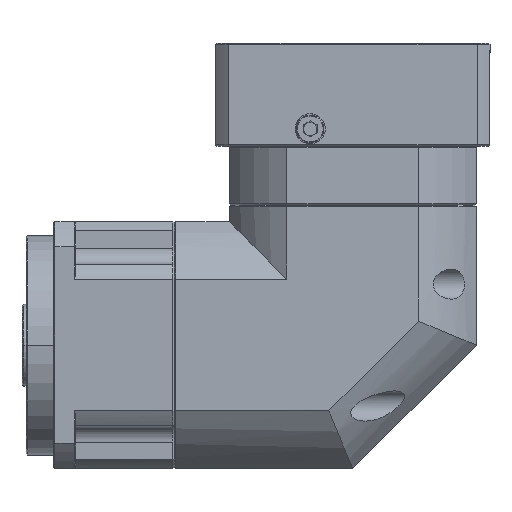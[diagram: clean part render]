
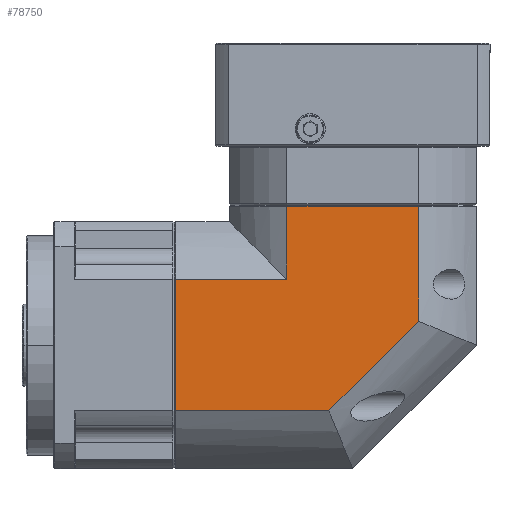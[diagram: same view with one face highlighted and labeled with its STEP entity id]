
A CAD part, top view. The second image highlights one B-rep face of the part: STEP entity #78750.
In plain terms, the highlighted planar face has unit normal (0, 0, -1).
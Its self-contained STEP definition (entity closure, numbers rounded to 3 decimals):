
#3 = CARTESIAN_POINT ( 'NONE',  ( 98.75, 24., 45. ) ) ;
#1104 = DIRECTION ( 'NONE',  ( -1., 0., 0. ) ) ;
#3790 = LINE ( 'NONE', #12963, #30689 ) ;
#4837 = CARTESIAN_POINT ( 'NONE',  ( 95., 50.5, 45. ) ) ;
#5391 = ORIENTED_EDGE ( 'NONE', *, *, #31194, .F. ) ;
#6492 = EDGE_CURVE ( 'NONE', #23759, #75679, #46971, .T. ) ;
#7137 = EDGE_CURVE ( 'NONE', #33774, #74634, #31535, .T. ) ;
#8368 = VERTEX_POINT ( 'NONE', #15117 ) ;
#10895 = DIRECTION ( 'NONE',  ( 0., -1., 0. ) ) ;
#12169 = CARTESIAN_POINT ( 'NONE',  ( 95., 24., 45. ) ) ;
#12963 = CARTESIAN_POINT ( 'NONE',  ( 119., 50.5, 45. ) ) ;
#15117 = CARTESIAN_POINT ( 'NONE',  ( 54.5, -24., 45. ) ) ;
#18103 = VECTOR ( 'NONE', #1104, 1000. ) ;
#20624 = ORIENTED_EDGE ( 'NONE', *, *, #6492, .F. ) ;
#21760 = CARTESIAN_POINT ( 'NONE',  ( 110.302, -24., 45. ) ) ;
#21867 = DIRECTION ( 'NONE',  ( 1., 0., 0. ) ) ;
#22541 = CARTESIAN_POINT ( 'NONE',  ( 95., 13.25, 45. ) ) ;
#23194 = VERTEX_POINT ( 'NONE', #4837 ) ;
#23759 = VERTEX_POINT ( 'NONE', #21760 ) ;
#24853 = EDGE_CURVE ( 'NONE', #23194, #51222, #3790, .T. ) ;
#26174 = DIRECTION ( 'NONE',  ( 0.707, 0.707, 0. ) ) ;
#30689 = VECTOR ( 'NONE', #59092, 1000. ) ;
#31194 = EDGE_CURVE ( 'NONE', #74634, #8368, #72410, .T. ) ;
#31535 = LINE ( 'NONE', #3, #18103 ) ;
#32057 = ORIENTED_EDGE ( 'NONE', *, *, #7137, .F. ) ;
#33073 = CARTESIAN_POINT ( 'NONE',  ( 149.421, 15.119, 45. ) ) ;
#33774 = VERTEX_POINT ( 'NONE', #12169 ) ;
#36659 = LINE ( 'NONE', #80398, #49079 ) ;
#40801 = DIRECTION ( 'NONE',  ( 0., 0., -1. ) ) ;
#43346 = CARTESIAN_POINT ( 'NONE',  ( 143., 8.698, 45. ) ) ;
#43385 = ORIENTED_EDGE ( 'NONE', *, *, #24853, .T. ) ;
#46971 = LINE ( 'NONE', #33073, #74817 ) ;
#48159 = LINE ( 'NONE', #22541, #79118 ) ;
#49079 = VECTOR ( 'NONE', #21867, 1000. ) ;
#50875 = ORIENTED_EDGE ( 'NONE', *, *, #80643, .F. ) ;
#51222 = VERTEX_POINT ( 'NONE', #83897 ) ;
#51351 = EDGE_CURVE ( 'NONE', #8368, #23759, #36659, .T. ) ;
#51701 = CARTESIAN_POINT ( 'NONE',  ( 54.5, 24., 45. ) ) ;
#54061 = CARTESIAN_POINT ( 'NONE',  ( 54.5, -24., 45. ) ) ;
#54848 = AXIS2_PLACEMENT_3D ( 'NONE', #54061, #40801, #59832 ) ;
#57030 = LINE ( 'NONE', #84654, #66367 ) ;
#57298 = ORIENTED_EDGE ( 'NONE', *, *, #76611, .F. ) ;
#59092 = DIRECTION ( 'NONE',  ( 1., 0., 0. ) ) ;
#59832 = DIRECTION ( 'NONE',  ( 0., 1., 0. ) ) ;
#65641 = DIRECTION ( 'NONE',  ( 0., 1., 0. ) ) ;
#66367 = VECTOR ( 'NONE', #65641, 1000. ) ;
#66412 = FACE_OUTER_BOUND ( 'NONE', #74257, .T. ) ;
#71347 = VECTOR ( 'NONE', #10895, 1000. ) ;
#72410 = LINE ( 'NONE', #78080, #71347 ) ;
#74257 = EDGE_LOOP ( 'NONE', ( #20624, #83486, #5391, #32057, #50875, #43385, #57298 ) ) ;
#74634 = VERTEX_POINT ( 'NONE', #51701 ) ;
#74817 = VECTOR ( 'NONE', #26174, 1000. ) ;
#75679 = VERTEX_POINT ( 'NONE', #43346 ) ;
#76611 = EDGE_CURVE ( 'NONE', #75679, #51222, #57030, .T. ) ;
#78080 = CARTESIAN_POINT ( 'NONE',  ( 54.5, 13.25, 45. ) ) ;
#78750 = ADVANCED_FACE ( 'NONE', ( #66412 ), #80299, .T. ) ;
#79118 = VECTOR ( 'NONE', #80785, 1000. ) ;
#80299 = PLANE ( 'NONE',  #54848 ) ;
#80398 = CARTESIAN_POINT ( 'NONE',  ( 98.75, -24., 45. ) ) ;
#80643 = EDGE_CURVE ( 'NONE', #23194, #33774, #48159, .T. ) ;
#80785 = DIRECTION ( 'NONE',  ( 0., -1., 0. ) ) ;
#83486 = ORIENTED_EDGE ( 'NONE', *, *, #51351, .F. ) ;
#83897 = CARTESIAN_POINT ( 'NONE',  ( 143., 50.5, 45. ) ) ;
#84654 = CARTESIAN_POINT ( 'NONE',  ( 143., 13.25, 45. ) ) ;
